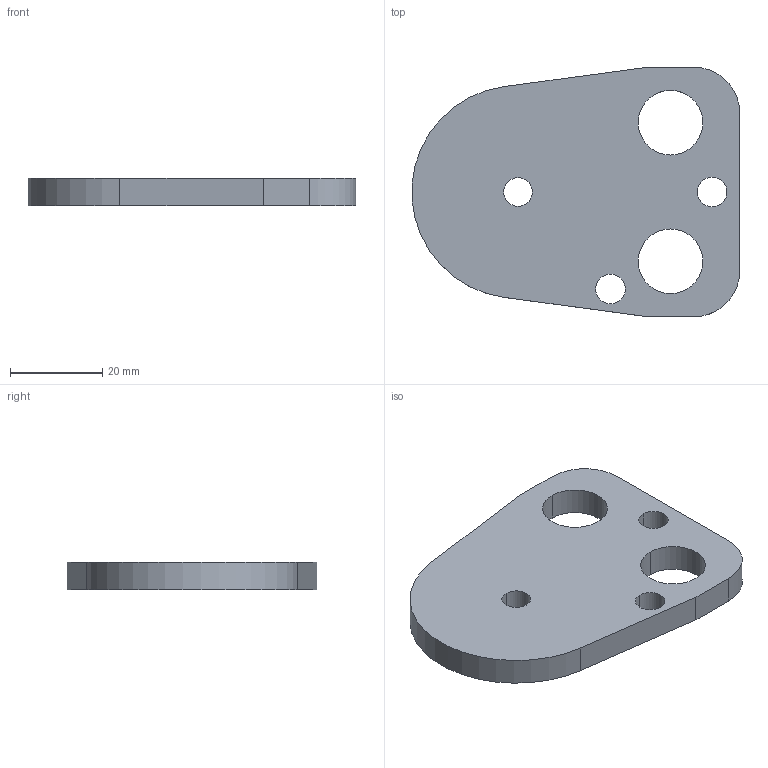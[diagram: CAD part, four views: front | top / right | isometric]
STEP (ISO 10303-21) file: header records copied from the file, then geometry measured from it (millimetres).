
FILE_DESCRIPTION(/* description */ (''),/* implementation_level */ '2;1');
FILE_NAME(/* name */ '3d_bpc32-6_03397_r00.stp',/* time_stamp */ '2011-01-10T14:17:09+09:00',/* author */ ('MISUMI'),/* organization */ (''),/* preprocessor_version */ 'ST-DEVELOPER v11',/* originating_system */ 'UGS - NX 5.0',/* authorisation */ '');
FILE_SCHEMA (('CONFIG_CONTROL_DESIGN'));
Length unit declared in the file: millimetre
Products named in the file (1): 3d_bpc32-6_03397_r00
Bounding box: 70.92 x 54 x 6 mm (x, y, z)
Volume: 17231.6 mm3; surface area: 7915.1 mm2
Topology: 1 solids, 1 shells, 20 faces, 54 edges, 36 vertices
Faces by surface type: cylinder 13, plane 7
Entity records: 750 total; most frequent: DIRECTION 122, CARTESIAN_POINT 111, ORIENTED_EDGE 108, EDGE_CURVE 54, AXIS2_PLACEMENT_3D 47, VERTEX_POINT 36, EDGE_LOOP 30, LINE 28
